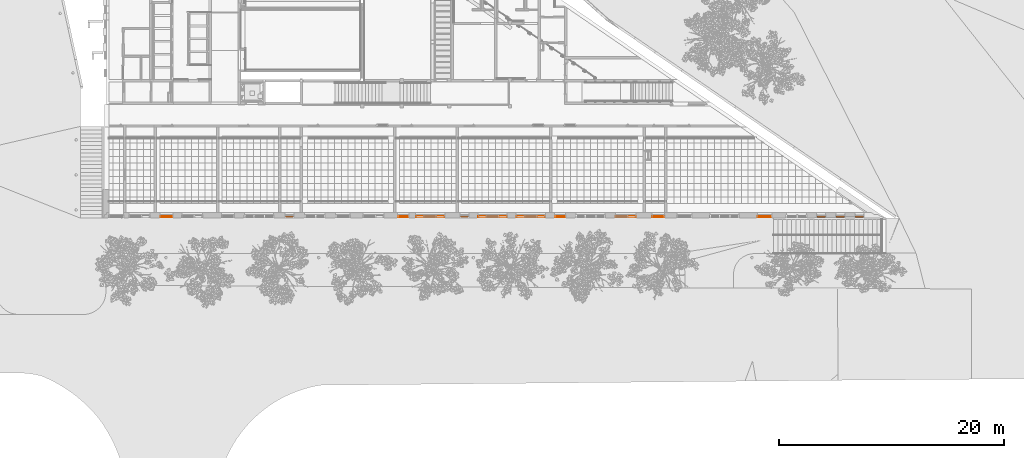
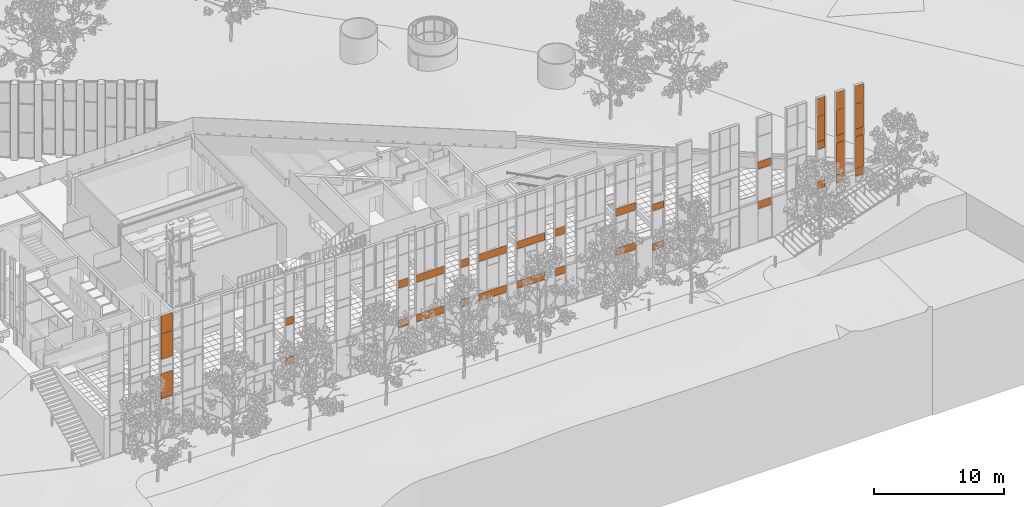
# One storey, part 207 of 246: 37 proxies, 14 elements without a shape of their own.
"""IFC2X3 building model written with IfcOpenShell, lengths in millimetres."""

from ifc_helpers import new_model, entity, si_unit, converted_unit, derived_unit, money_unit, direction, frame, origin_with_axes, place, context, subcontext, project, spatial, faceted_brep, source, transform, mapped, material, type_object, element, aggregate, save


model = new_model("IFC2X3")

# Units and contexts
model_context = context("Model", 3, precision=0.01, world=origin_with_axes(), true_north=direction((0.0, 1.0)))
body_context = subcontext(model_context, "Body", "Model", "MODEL_VIEW")
ifc_project = project(units=[si_unit("LENGTHUNIT", "METRE", prefix="MILLI"), si_unit("AREAUNIT", "SQUARE_METRE"), si_unit("VOLUMEUNIT", "CUBIC_METRE"), converted_unit("PLANEANGLEUNIT", "DEGREE", entity("IfcPlaneAngleMeasure", 0.0174532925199), si_unit("PLANEANGLEUNIT", "RADIAN"), dimensions=[0, 0, 0, 0, 0, 0, 0]), si_unit("SOLIDANGLEUNIT", "STERADIAN"), money_unit("EUR"), converted_unit("TIMEUNIT", "Year", entity("IfcTimeMeasure", 31556926.0), si_unit("TIMEUNIT", "SECOND"), dimensions=[0, 0, 1, 0, 0, 0, 0]), si_unit("MASSUNIT", "GRAM", prefix="KILO"), si_unit("THERMODYNAMICTEMPERATUREUNIT", "DEGREE_CELSIUS"), si_unit("LUMINOUSINTENSITYUNIT", "LUMEN"), si_unit("ENERGYUNIT", "JOULE", prefix="MEGA"), derived_unit("THERMALCONDUCTANCEUNIT", [(si_unit("POWERUNIT", "WATT"), 1), (si_unit("LENGTHUNIT", "METRE"), -1), (si_unit("THERMODYNAMICTEMPERATUREUNIT", "KELVIN"), -1)]), derived_unit("SPECIFICHEATCAPACITYUNIT", [(si_unit("ENERGYUNIT", "JOULE"), 1), (si_unit("MASSUNIT", "GRAM", prefix="KILO"), -1), (si_unit("THERMODYNAMICTEMPERATUREUNIT", "KELVIN"), -1)]), derived_unit("MASSDENSITYUNIT", [(si_unit("MASSUNIT", "GRAM", prefix="KILO"), 1), (si_unit("VOLUMEUNIT", "CUBIC_METRE"), -1)])], contexts=[model_context])

# Site, building, storey
site_placement = place(None, origin_with_axes())
site = spatial("IfcSite", under=ifc_project, at=site_placement, Name="L.Koidula tn 11b", CompositionType="ELEMENT")
building_placement = place(site_placement, origin_with_axes())
building = spatial("IfcBuilding", under=site, at=building_placement, Name="Rakvere Riigigümnaasium", CompositionType="ELEMENT")
storey_placement = place(building_placement, origin_with_axes())
storey = spatial("IfcBuildingStorey", under=building, at=storey_placement, Name="1.korrus 0,00", CompositionType="ELEMENT", Elevation=0.0)

# Curtain wall, proxies
curtain_wall_type = type_object("IfcCurtainWallType", Name="Curtain Wall Type", PredefinedType="NOTDEFINED")
curtain_wall_1_placement = place(storey_placement, frame((81464.0000846, 5111.45334637, -8.09717250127e-06), z_axis=(0.0, 0.0, 1.0), x_axis=(1.0, 0.0, 0.0)))
curtain_wall_1 = element("IfcCurtainWall", 1, at=curtain_wall_1_placement, inside=storey, type_object=curtain_wall_type, Name="KLF-05-2A")
ifc_material_1 = material(Name="Klaaspakett- taustvärvitud klaas 3x")
building_element_proxy_type_1 = type_object("IfcBuildingElementProxyType", Name="1058 x 681 x 54", PredefinedType="NOTDEFINED")
shared_shape_1 = source(origin_with_axes(), body_context, "Body", "Brep", [
    faceted_brep([(1793.00030431, 692.999989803, -27.0), (1094.99999675, 692.999989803, -27.0), (1094.99999675, 692.999989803, 27.0), (1793.00030431, 692.999989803, 27.0), (1793.00030431, 12.0000099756, -27.0), (1094.99999675, 12.0000099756, -27.0), (36.9999898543, 12.0000099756, -27.0), (36.9999898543, 692.999989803, -27.0), (36.9999898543, 692.999989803, 27.0), (36.9999898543, 12.0000099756, 27.0), (1094.99999675, 12.0000099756, 27.0), (1793.00030431, 12.0000099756, 27.0)], [[[0, 1, 2, 3]], [[0, 4, 5, 6, 7, 1]], [[1, 7, 8, 2]], [[3, 2, 8, 9, 10, 11]], [[4, 0, 3, 11]], [[5, 4, 11, 10]], [[6, 5, 10, 9]], [[7, 6, 9, 8]]]),
])
proxy_1_placement = place(curtain_wall_1_placement, frame((0.0, 0.0, 3392.5), z_axis=(0.0, 0.0, 1.0), x_axis=(-1.0, 0.0, 0.0)))
proxy_1 = element("IfcBuildingElementProxy", 2, at=proxy_1_placement, type_object=building_element_proxy_type_1, material=ifc_material_1, Name="KLF-05-2A-Klaasid", context=body_context, shape_type="MappedRepresentation", body=[
    mapped(shared_shape_1, transform((954.000087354, 0.0, -352.5), x_axis=(-1.0, 0.0, 0.0), y_axis=(0.0, 0.0, 1.0), z_axis=(0.0, 1.0, 0.0))),
])
proxy_2_placement = place(curtain_wall_1_placement, frame((0.0, 0.0, 7112.5), z_axis=(0.0, 0.0, 1.0), x_axis=(-1.0, 0.0, 0.0)))
proxy_2 = element("IfcBuildingElementProxy", 3, at=proxy_2_placement, type_object=building_element_proxy_type_1, material=ifc_material_1, Name="KLF-05-2A-Klaasid", context=body_context, shape_type="MappedRepresentation", body=[
    mapped(shared_shape_1, transform((954.000087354, 0.0, -352.5), x_axis=(-1.0, 0.0, 0.0), y_axis=(0.0, 0.0, 1.0), z_axis=(0.0, 1.0, 0.0))),
])
aggregate(curtain_wall_1, [proxy_1, proxy_2])

curtain_wall_2_placement = place(storey_placement, frame((102199.946081, 5111.65323731, 2560.0), z_axis=(0.0, 0.0, 1.0), x_axis=(1.0, 0.0, 0.0)))
curtain_wall_2 = element("IfcCurtainWall", 4, at=curtain_wall_2_placement, inside=storey, type_object=curtain_wall_type, Name="KLF-05-4A3")
building_element_proxy_type_2 = type_object("IfcBuildingElementProxyType", Name="706 x 681 x 54", PredefinedType="NOTDEFINED")
shared_shape_2 = source(origin_with_axes(), body_context, "Body", "Brep", [
    faceted_brep([(762.999723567, 693.000004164, -27.0), (57.0001092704, 693.000004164, -27.0), (57.0001092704, 693.000004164, 27.0), (762.999723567, 693.000004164, 27.0), (762.999723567, 12.0000049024, -27.0), (57.0001092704, 12.0000049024, -27.0), (57.0001092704, 12.0000049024, 27.0), (762.999723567, 12.0000049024, 27.0)], [[[0, 1, 2, 3]], [[0, 4, 5, 1]], [[1, 5, 6, 2]], [[3, 2, 6, 7]], [[4, 0, 3, 7]], [[5, 4, 7, 6]]]),
])
proxy_3_placement = place(curtain_wall_2_placement, frame((0.0, 0.0, 4557.5), z_axis=(0.0, 0.0, 1.0), x_axis=(-0.999999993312, 0.00011565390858, 0.0)))
proxy_3 = element("IfcBuildingElementProxy", 5, at=proxy_3_placement, type_object=building_element_proxy_type_2, material=ifc_material_1, Name="KLF-68", context=body_context, shape_type="MappedRepresentation", body=[
    mapped(shared_shape_2, transform((409.999916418, 0.0, -352.5), x_axis=(-1.0, 0.0, 0.0), y_axis=(0.0, 0.0, 1.0), z_axis=(0.0, 1.0, 0.0))),
])
proxy_4_placement = place(curtain_wall_2_placement, frame((0.0, 0.0, 837.5), z_axis=(0.0, 0.0, 1.0), x_axis=(-0.999999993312, 0.00011565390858, 0.0)))
proxy_4 = element("IfcBuildingElementProxy", 6, at=proxy_4_placement, type_object=building_element_proxy_type_2, material=ifc_material_1, Name="KLF-69", context=body_context, shape_type="MappedRepresentation", body=[
    mapped(shared_shape_2, transform((409.999916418, 0.0, -352.5), x_axis=(-1.0, 0.0, 0.0), y_axis=(0.0, 0.0, 1.0), z_axis=(0.0, 1.0, 0.0))),
])

curtain_wall_3_placement = place(storey_placement, frame((98799.9667993, 5111.45595337, 1534.99996364), z_axis=(0.0, 0.0, 1.0), x_axis=(1.0, 0.0, 0.0)))
curtain_wall_3 = element("IfcCurtainWall", 7, at=curtain_wall_3_placement, inside=storey, type_object=curtain_wall_type, Name="KLF-05-4A1")
proxy_5_placement = place(curtain_wall_3_placement, frame((0.0, 0.0, 5577.50002826), z_axis=(0.0, 0.0, 1.0), x_axis=(-0.999999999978, -6.68287358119e-06, 0.0)))
proxy_5 = element("IfcBuildingElementProxy", 8, at=proxy_5_placement, type_object=building_element_proxy_type_2, material=ifc_material_1, Name="KLF-73", context=body_context, shape_type="MappedRepresentation", body=[
    mapped(shared_shape_2, transform((409.999957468, 0.0, -352.5), x_axis=(-0.999999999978, 6.68287358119e-06, 0.0), y_axis=(0.0, 0.0, 1.0), z_axis=(6.68287358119e-06, 0.999999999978, 0.0))),
])
proxy_6_placement = place(curtain_wall_3_placement, frame((0.0, 0.0, 1857.50002826), z_axis=(0.0, 0.0, 1.0), x_axis=(-0.999999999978, -6.68287358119e-06, 0.0)))
proxy_6 = element("IfcBuildingElementProxy", 9, at=proxy_6_placement, type_object=building_element_proxy_type_2, material=ifc_material_1, Name="KLF-67", context=body_context, shape_type="MappedRepresentation", body=[
    mapped(shared_shape_2, transform((409.999957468, 0.0, -352.5), x_axis=(-0.999999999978, 6.68287358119e-06, 0.0), y_axis=(0.0, 0.0, 1.0), z_axis=(6.68287358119e-06, 0.999999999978, 0.0))),
])

curtain_wall_4_placement = place(storey_placement, frame((100499.941472, 5111.64286466, 2044.99997146), z_axis=(0.0, 0.0, 1.0), x_axis=(1.0, 0.0, 0.0)))
curtain_wall_4 = element("IfcCurtainWall", 10, at=curtain_wall_4_placement, inside=storey, type_object=curtain_wall_type, Name="KLF-05-4A2")
proxy_7_placement = place(curtain_wall_4_placement, frame((2.35403376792e-05, -3.34843264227e-09, 5067.5), z_axis=(0.0, 0.0, 1.0), x_axis=(-0.999999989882, 0.000142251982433, 0.0)))
proxy_7 = element("IfcBuildingElementProxy", 11, at=proxy_7_placement, type_object=building_element_proxy_type_2, material=ifc_material_1, Name="KLF-67", context=body_context, shape_type="MappedRepresentation", body=[
    mapped(shared_shape_2, transform((409.999827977, 0.0, -352.5), x_axis=(-1.0, 0.0, 0.0), y_axis=(0.0, 0.0, 1.0), z_axis=(0.0, 1.0, 0.0))),
])
proxy_8_placement = place(curtain_wall_4_placement, frame((2.35403376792e-05, -3.34843264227e-09, 1347.5), z_axis=(0.0, 0.0, 1.0), x_axis=(-0.999999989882, 0.000142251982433, 0.0)))
proxy_8 = element("IfcBuildingElementProxy", 12, at=proxy_8_placement, type_object=building_element_proxy_type_2, material=ifc_material_1, Name="KLF-66", context=body_context, shape_type="MappedRepresentation", body=[
    mapped(shared_shape_2, transform((409.999827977, 0.0, -352.5), x_axis=(-1.0, 0.0, 0.0), y_axis=(0.0, 0.0, 1.0), z_axis=(0.0, 1.0, 0.0))),
])

curtain_wall_5_placement = place(storey_placement, frame((72896.908541, 5111.45334637, -8.09717227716e-06), z_axis=(0.0, 0.0, 1.0), x_axis=(1.0, 0.0, 0.0)))
curtain_wall_5 = element("IfcCurtainWall", 13, at=curtain_wall_5_placement, inside=storey, type_object=curtain_wall_type, Name="KLF-05-3B")
building_element_proxy_type_3 = type_object("IfcBuildingElementProxyType", Name="718 x 681 x 54", PredefinedType="NOTDEFINED")
shared_shape_3 = source(origin_with_axes(), body_context, "Body", "Brep", [
    faceted_brep([(1787.99995967, 693.000018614, -27.0), (1069.99998177, 693.000018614, -27.0), (1069.99998177, 693.000018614, 27.0), (1787.99995967, 693.000018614, 27.0), (1787.99995967, 12.0000019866, -27.0), (1069.99998177, 12.0000019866, -27.0), (19.5432731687, 12.0000019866, -27.0), (9.66683444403e-06, 12.0000019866, -27.0), (-718.000083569, 12.0000019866, -27.0), (-718.000083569, 693.000018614, -27.0), (9.66683444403e-06, 693.000018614, -27.0), (19.5432731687, 693.000018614, -27.0), (19.5432731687, 693.000018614, 27.0), (9.66683444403e-06, 693.000018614, 27.0), (-718.000083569, 693.000018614, 27.0), (-718.000083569, 12.0000019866, 27.0), (9.66683444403e-06, 12.0000019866, 27.0), (19.5432731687, 12.0000019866, 27.0), (1069.99998177, 12.0000019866, 27.0), (1787.99995967, 12.0000019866, 27.0)], [[[0, 1, 2, 3]], [[0, 4, 5, 6, 7, 8, 9, 10, 11, 1]], [[1, 11, 12, 2]], [[3, 2, 12, 13, 14, 15, 16, 17, 18, 19]], [[4, 0, 3, 19]], [[5, 4, 19, 18]], [[6, 5, 18, 17]], [[7, 6, 17, 16]], [[8, 7, 16, 15]], [[9, 8, 15, 14]], [[10, 9, 14, 13]], [[11, 10, 13, 12]]]),
])
proxy_9_placement = place(curtain_wall_5_placement, frame((0.0, 0.0, 3392.5), z_axis=(0.0, 0.0, 1.0), x_axis=(-1.0, 0.0, 0.0)))
proxy_9 = element("IfcBuildingElementProxy", 14, at=proxy_9_placement, type_object=building_element_proxy_type_3, material=ifc_material_1, Name="KLF-05-2A-Klaasid", context=body_context, shape_type="MappedRepresentation", body=[
    mapped(shared_shape_3, transform((431.908628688, 0.0, -352.5), x_axis=(-1.0, 0.0, 0.0), y_axis=(0.0, 0.0, 1.0), z_axis=(0.0, 1.0, 0.0))),
])
proxy_10_placement = place(curtain_wall_5_placement, frame((-1.72704659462e-05, 0.0, 7112.5), z_axis=(0.0, 0.0, 1.0), x_axis=(-1.0, 0.0, 0.0)))
proxy_10 = element("IfcBuildingElementProxy", 15, at=proxy_10_placement, type_object=building_element_proxy_type_3, material=ifc_material_1, Name="KLF-05-2A-Klaasid", context=body_context, shape_type="MappedRepresentation", body=[
    mapped(shared_shape_3, transform((431.908611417, 0.0, -352.5), x_axis=(-1.0, 0.0, 0.0), y_axis=(0.0, 0.0, 1.0), z_axis=(0.0, 1.0, 0.0))),
])
aggregate(curtain_wall_5, [proxy_9, proxy_10])

curtain_wall_6_placement = place(storey_placement, frame((69496.9084811, 5111.45334637, -8.09717186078e-06), z_axis=(0.0, 0.0, 1.0), x_axis=(1.0, 0.0, 0.0)))
curtain_wall_6 = element("IfcCurtainWall", 16, at=curtain_wall_6_placement, inside=storey, type_object=curtain_wall_type, Name="KLF-05-3B")
proxy_11_placement = place(curtain_wall_6_placement, frame((0.0, 0.0, 3392.5), z_axis=(0.0, 0.0, 1.0), x_axis=(-1.0, 0.0, 0.0)))
proxy_11 = element("IfcBuildingElementProxy", 17, at=proxy_11_placement, type_object=building_element_proxy_type_3, material=ifc_material_1, Name="KLF-05-2A-Klaasid", context=body_context, shape_type="MappedRepresentation", body=[
    mapped(shared_shape_3, transform((431.908628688, 0.0, -352.5), x_axis=(-1.0, 0.0, 0.0), y_axis=(0.0, 0.0, 1.0), z_axis=(0.0, 1.0, 0.0))),
])
proxy_12_placement = place(curtain_wall_6_placement, frame((-1.72704801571e-05, 0.0, 7112.5), z_axis=(0.0, 0.0, 1.0), x_axis=(-1.0, 0.0, 0.0)))
proxy_12 = element("IfcBuildingElementProxy", 18, at=proxy_12_placement, type_object=building_element_proxy_type_3, material=ifc_material_1, Name="KLF-05-2A-Klaasid", context=body_context, shape_type="MappedRepresentation", body=[
    mapped(shared_shape_3, transform((431.908611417, 0.0, -352.5), x_axis=(-1.0, 0.0, 0.0), y_axis=(0.0, 0.0, 1.0), z_axis=(0.0, 1.0, 0.0))),
])
aggregate(curtain_wall_6, [proxy_11, proxy_12])

curtain_wall_7_placement = place(storey_placement, frame((63946.9084811, 5111.45334637, -8.0971711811e-06), z_axis=(0.0, 0.0, 1.0), x_axis=(1.0, 0.0, 0.0)))
curtain_wall_7 = element("IfcCurtainWall", 19, at=curtain_wall_7_placement, inside=storey, type_object=curtain_wall_type, Name="KLF-05-3B")
proxy_13_placement = place(curtain_wall_7_placement, frame((0.0, 0.0, 3392.5), z_axis=(0.0, 0.0, 1.0), x_axis=(-1.0, 0.0, 0.0)))
proxy_13 = element("IfcBuildingElementProxy", 20, at=proxy_13_placement, type_object=building_element_proxy_type_3, material=ifc_material_1, Name="KLF-05-2A-Klaasid", context=body_context, shape_type="MappedRepresentation", body=[
    mapped(shared_shape_3, transform((431.908628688, 0.0, -352.5), x_axis=(-1.0, 0.0, 0.0), y_axis=(0.0, 0.0, 1.0), z_axis=(0.0, 1.0, 0.0))),
])
proxy_14_placement = place(curtain_wall_7_placement, frame((-1.72704659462e-05, 0.0, 7112.5), z_axis=(0.0, 0.0, 1.0), x_axis=(-1.0, 0.0, 0.0)))
proxy_14 = element("IfcBuildingElementProxy", 21, at=proxy_14_placement, type_object=building_element_proxy_type_3, material=ifc_material_1, Name="KLF-05-2A-Klaasid", context=body_context, shape_type="MappedRepresentation", body=[
    mapped(shared_shape_3, transform((431.908611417, 0.0, -352.5), x_axis=(-1.0, 0.0, 0.0), y_axis=(0.0, 0.0, 1.0), z_axis=(0.0, 1.0, 0.0))),
])
aggregate(curtain_wall_7, [proxy_13, proxy_14])

curtain_wall_8_placement = place(storey_placement, frame((75600.000125, 5111.45334637, -1.61944652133e-05), z_axis=(0.0, 0.0, 1.0), x_axis=(1.0, 0.0, 0.0)))
curtain_wall_8 = element("IfcCurtainWall", 22, at=curtain_wall_8_placement, inside=storey, type_object=curtain_wall_type, Name="KLF-05-4B")
building_element_proxy_type_4 = type_object("IfcBuildingElementProxyType", Name="906 x 681 x 54", PredefinedType="NOTDEFINED")
shared_shape_4 = source(origin_with_axes(), body_context, "Body", "Brep", [
    faceted_brep([(943.000295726, 692.999998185, -27.0), (37.0000026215, 692.999998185, -27.0), (37.0000026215, 692.999998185, 27.0), (943.000295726, 692.999998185, 27.0), (943.000295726, 11.9999976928, -27.0), (37.0000026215, 11.9999976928, -27.0), (37.0000026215, 11.9999976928, 27.0), (943.000295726, 11.9999976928, 27.0)], [[[0, 1, 2, 3]], [[0, 4, 5, 1]], [[1, 5, 6, 2]], [[3, 2, 6, 7]], [[4, 0, 3, 7]], [[5, 4, 7, 6]]]),
])
proxy_15_placement = place(curtain_wall_8_placement, frame((2.13789377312e-05, 0.0, 7112.5), z_axis=(0.0, 0.0, 1.0), x_axis=(-1.0, 0.0, 0.0)))
proxy_15 = element("IfcBuildingElementProxy", 23, at=proxy_15_placement, type_object=building_element_proxy_type_4, material=ifc_material_1, Name="KLF-70", context=body_context, shape_type="MappedRepresentation", body=[
    mapped(shared_shape_4, transform((490.000149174, 0.0, -352.5), x_axis=(-1.0, 0.0, 0.0), y_axis=(0.0, 0.0, 1.0), z_axis=(0.0, 1.0, 0.0))),
])
proxy_16_placement = place(curtain_wall_8_placement, frame((2.13789377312e-05, 0.0, 3392.5), z_axis=(0.0, 0.0, 1.0), x_axis=(-1.0, 0.0, 0.0)))
proxy_16 = element("IfcBuildingElementProxy", 24, at=proxy_16_placement, type_object=building_element_proxy_type_4, material=ifc_material_1, Name="KLF-66", context=body_context, shape_type="MappedRepresentation", body=[
    mapped(shared_shape_4, transform((490.000149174, 0.0, -352.5), x_axis=(-1.0, 0.0, 0.0), y_axis=(0.0, 0.0, 1.0), z_axis=(0.0, 1.0, 0.0))),
])
aggregate(curtain_wall_8, [proxy_15, proxy_16])

curtain_wall_9_placement = place(storey_placement, frame((61650.0002269, 5111.45334637, -8.09717995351e-06), z_axis=(0.0, 0.0, 1.0), x_axis=(1.0, 0.0, 0.0)))
curtain_wall_9 = element("IfcCurtainWall", 25, at=curtain_wall_9_placement, inside=storey, type_object=curtain_wall_type, Name="KLF-05-4B")
proxy_17_placement = place(curtain_wall_9_placement, frame((2.13789448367e-05, 0.0, 7112.5), z_axis=(0.0, 0.0, 1.0), x_axis=(-1.0, 0.0, 0.0)))
proxy_17 = element("IfcBuildingElementProxy", 26, at=proxy_17_placement, type_object=building_element_proxy_type_4, material=ifc_material_1, Name="KLF-70", context=body_context, shape_type="MappedRepresentation", body=[
    mapped(shared_shape_4, transform((490.000149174, 0.0, -352.5), x_axis=(-1.0, 0.0, 0.0), y_axis=(0.0, 0.0, 1.0), z_axis=(0.0, 1.0, 0.0))),
])
proxy_18_placement = place(curtain_wall_9_placement, frame((2.13789448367e-05, 0.0, 3392.5), z_axis=(0.0, 0.0, 1.0), x_axis=(-1.0, 0.0, 0.0)))
proxy_18 = element("IfcBuildingElementProxy", 27, at=proxy_18_placement, type_object=building_element_proxy_type_4, material=ifc_material_1, Name="KLF-66", context=body_context, shape_type="MappedRepresentation", body=[
    mapped(shared_shape_4, transform((490.000149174, 0.0, -352.5), x_axis=(-1.0, 0.0, 0.0), y_axis=(0.0, 0.0, 1.0), z_axis=(0.0, 1.0, 0.0))),
])
aggregate(curtain_wall_9, [proxy_17, proxy_18])

curtain_wall_10_placement = place(storey_placement, frame((67100.0002798, 5111.45334637, -1.61944652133e-05), z_axis=(0.0, 0.0, 1.0), x_axis=(1.0, 0.0, 0.0)))
curtain_wall_10 = element("IfcCurtainWall", 28, at=curtain_wall_10_placement, inside=storey, type_object=curtain_wall_type, Name="KLF-05-4A")
shared_shape_5 = source(origin_with_axes(), body_context, "Body", "Brep", [
    faceted_brep([(743.000411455, 693.000003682, -27.0), (36.999994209, 693.000003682, -27.0), (36.999994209, 693.000003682, 27.0), (743.000411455, 693.000003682, 27.0), (743.000411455, 12.0000053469, -27.0), (36.999994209, 12.0000053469, -27.0), (36.999994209, 12.0000053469, 27.0), (743.000411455, 12.0000053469, 27.0)], [[[0, 1, 2, 3]], [[0, 4, 5, 1]], [[1, 5, 6, 2]], [[3, 2, 6, 7]], [[4, 0, 3, 7]], [[5, 4, 7, 6]]]),
])
proxy_19_placement = place(curtain_wall_10_placement, frame((5.73966474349e-06, 0.0, 7112.5), z_axis=(0.0, 0.0, 1.0), x_axis=(-1.0, 0.0, 0.0)))
proxy_19 = element("IfcBuildingElementProxy", 29, at=proxy_19_placement, type_object=building_element_proxy_type_2, material=ifc_material_1, Name="KLF-70", context=body_context, shape_type="MappedRepresentation", body=[
    mapped(shared_shape_5, transform((390.000202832, 0.0, -352.5), x_axis=(-1.0, 0.0, 0.0), y_axis=(0.0, 0.0, 1.0), z_axis=(0.0, 1.0, 0.0))),
])
proxy_20_placement = place(curtain_wall_10_placement, frame((5.73966474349e-06, 0.0, 3392.5), z_axis=(0.0, 0.0, 1.0), x_axis=(-1.0, 0.0, 0.0)))
proxy_20 = element("IfcBuildingElementProxy", 30, at=proxy_20_placement, type_object=building_element_proxy_type_2, material=ifc_material_1, Name="KLF-66", context=body_context, shape_type="MappedRepresentation", body=[
    mapped(shared_shape_5, transform((390.000202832, 0.0, -352.5), x_axis=(-1.0, 0.0, 0.0), y_axis=(0.0, 0.0, 1.0), z_axis=(0.0, 1.0, 0.0))),
])
aggregate(curtain_wall_10, [proxy_19, proxy_20])

curtain_wall_11_placement = place(storey_placement, frame((51550.0001978, 5111.45334637, -1.61944652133e-05), z_axis=(0.0, 0.0, 1.0), x_axis=(1.0, 0.0, 0.0)))
curtain_wall_11 = element("IfcCurtainWall", 31, at=curtain_wall_11_placement, inside=storey, type_object=curtain_wall_type, Name="KLF-05-4A")
proxy_21_placement = place(curtain_wall_11_placement, frame((5.73965053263e-06, 0.0, 7112.5), z_axis=(0.0, 0.0, 1.0), x_axis=(-1.0, 0.0, 0.0)))
proxy_21 = element("IfcBuildingElementProxy", 32, at=proxy_21_placement, type_object=building_element_proxy_type_2, material=ifc_material_1, Name="KLF-70", context=body_context, shape_type="MappedRepresentation", body=[
    mapped(shared_shape_5, transform((390.000202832, 0.0, -352.5), x_axis=(-1.0, 0.0, 0.0), y_axis=(0.0, 0.0, 1.0), z_axis=(0.0, 1.0, 0.0))),
])
proxy_22_placement = place(curtain_wall_11_placement, frame((5.73965053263e-06, 0.0, 3392.5), z_axis=(0.0, 0.0, 1.0), x_axis=(-1.0, 0.0, 0.0)))
proxy_22 = element("IfcBuildingElementProxy", 33, at=proxy_22_placement, type_object=building_element_proxy_type_2, material=ifc_material_1, Name="KLF-66", context=body_context, shape_type="MappedRepresentation", body=[
    mapped(shared_shape_5, transform((390.000202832, 0.0, -352.5), x_axis=(-1.0, 0.0, 0.0), y_axis=(0.0, 0.0, 1.0), z_axis=(0.0, 1.0, 0.0))),
])
aggregate(curtain_wall_11, [proxy_21, proxy_22])

curtain_wall_12_placement = place(storey_placement, frame((84320.1847914, 5111.45334637, -1.61944635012e-05), z_axis=(0.0, 0.0, 1.0), x_axis=(1.0, 0.0, 0.0)))
curtain_wall_12 = element("IfcCurtainWall", 34, at=curtain_wall_12_placement, inside=storey, type_object=curtain_wall_type, Name="KLF-05-1C")
ifc_material_2 = material(Name="Klaaspakett 3x ribikardinatega")
building_element_proxy_type_5 = type_object("IfcBuildingElementProxyType", Name="1046 x 616 x 54", PredefinedType="NOTDEFINED")
shared_shape_6 = source(origin_with_axes(), body_context, "Body", "Brep", [
    faceted_brep([(1083.50020101, 627.999995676, -27.0), (37.4999016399, 627.999995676, -27.0), (37.4999016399, 627.999995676, 27.0), (1083.50020101, 627.999995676, 27.0), (1083.50020101, 12.0000057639, -27.0), (37.4999016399, 12.0000057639, -27.0), (37.4999016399, 12.0000057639, 27.0), (1083.50020101, 12.0000057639, 27.0)], [[[0, 1, 2, 3]], [[0, 4, 5, 1]], [[1, 5, 6, 2]], [[3, 2, 6, 7]], [[4, 0, 3, 7]], [[5, 4, 7, 6]]]),
])
proxy_23_placement = place(curtain_wall_12_placement, frame((0.0, 0.0, 6440.0), z_axis=(0.0, 0.0, 1.0), x_axis=(-1.0, 0.0, 0.0)))
proxy_23 = element("IfcBuildingElementProxy", 35, at=proxy_23_placement, type_object=building_element_proxy_type_5, material=ifc_material_2, Name="KLF-68", context=body_context, shape_type="MappedRepresentation", body=[
    mapped(shared_shape_6, transform((560.500051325, 0.0, -320.0), x_axis=(-1.0, 0.0, 0.0), y_axis=(0.0, 0.0, 1.0), z_axis=(0.0, 1.0, 0.0))),
])
proxy_24_placement = place(curtain_wall_12_placement, frame((0.0, 0.0, 2720.0), z_axis=(0.0, 0.0, 1.0), x_axis=(-1.0, 0.0, 0.0)))
proxy_24 = element("IfcBuildingElementProxy", 36, at=proxy_24_placement, type_object=building_element_proxy_type_5, material=ifc_material_2, Name="KLF-58", context=body_context, shape_type="MappedRepresentation", body=[
    mapped(shared_shape_6, transform((560.500051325, 0.0, -320.0), x_axis=(-1.0, 0.0, 0.0), y_axis=(0.0, 0.0, 1.0), z_axis=(0.0, 1.0, 0.0))),
])
aggregate(curtain_wall_12, [proxy_23, proxy_24])

# Proxy
building_element_proxy_type_6 = type_object("IfcBuildingElementProxyType", Name="706 x 1696 x 54", PredefinedType="NOTDEFINED")
shared_shape_7 = source(origin_with_axes(), body_context, "Body", "Brep", [
    faceted_brep([(762.999724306, 1707.99998959, -27.0), (57.0000470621, 1707.99998959, -27.0), (57.0000470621, 1707.99998959, 27.0), (762.999724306, 1707.99998959, 27.0), (762.999776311, 11.999995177, -27.0), (57.0000990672, 11.999995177, -27.0), (57.0000990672, 11.999995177, 27.0), (762.999776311, 11.999995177, 27.0)], [[[0, 1, 2, 3]], [[0, 4, 5, 1]], [[1, 5, 6, 2]], [[3, 2, 6, 7]], [[4, 0, 3, 7]], [[5, 4, 7, 6]]]),
])
proxy_25_placement = place(curtain_wall_2_placement, frame((5.50684831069e-07, 0.0, 8157.49999061), z_axis=(0.0, 0.0, 1.0), x_axis=(-0.999999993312, 0.00011565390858, 0.0)))
proxy_25 = element("IfcBuildingElementProxy", 37, at=proxy_25_placement, type_object=building_element_proxy_type_6, material=ifc_material_2, Name="KLF-71", context=body_context, shape_type="MappedRepresentation", body=[
    mapped(shared_shape_7, transform((409.999916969, 0.0, -872.499990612), x_axis=(-1.0, 0.0, 0.0), y_axis=(0.0, 0.0, 1.0), z_axis=(0.0, 1.0, 0.0))),
])

proxy_26_placement = place(curtain_wall_3_placement, frame((1.16805409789e-05, 0.0, 9177.50004084), z_axis=(0.0, 0.0, 1.0), x_axis=(-0.999999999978, -6.68287358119e-06, 0.0)))
proxy_26 = element("IfcBuildingElementProxy", 38, at=proxy_26_placement, type_object=building_element_proxy_type_6, material=ifc_material_2, Name="KLF-70", context=body_context, shape_type="MappedRepresentation", body=[
    mapped(shared_shape_7, transform((409.999969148, 0.0, -872.500012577), x_axis=(-0.999999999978, 6.68287358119e-06, 0.0), y_axis=(0.0, 0.0, 1.0), z_axis=(6.68287358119e-06, 0.999999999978, 0.0))),
])

proxy_27_placement = place(curtain_wall_4_placement, frame((0.0, 0.0, 8667.5000228), z_axis=(0.0, 0.0, 1.0), x_axis=(-0.999999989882, 0.000142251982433, 0.0)))
proxy_27 = element("IfcBuildingElementProxy", 39, at=proxy_27_placement, type_object=building_element_proxy_type_6, material=ifc_material_2, Name="KLF-70", context=body_context, shape_type="MappedRepresentation", body=[
    mapped(shared_shape_7, transform((409.999804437, 0.0, -872.500022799), x_axis=(-1.0, 0.0, 0.0), y_axis=(0.0, 0.0, 1.0), z_axis=(0.0, 1.0, 0.0))),
])

building_element_proxy_type_7 = type_object("IfcBuildingElementProxyType", Name="706 x 2351 x 54", PredefinedType="NOTDEFINED")
shared_shape_8 = source(origin_with_axes(), body_context, "Body", "Brep", [
    faceted_brep([(762.999777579, 2363.00000149, -27.0), (57.0000893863, 2363.00000149, -27.0), (57.0000893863, 2363.00000149, 27.0), (762.999777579, 2363.00000149, 27.0), (762.999742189, 11.9999985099, -27.0), (57.0000893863, 11.9999985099, -27.0), (57.0000893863, 11.9999985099, 27.0), (762.999742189, 11.9999985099, 27.0)], [[[0, 1, 2, 3]], [[0, 4, 5, 1]], [[1, 5, 6, 2]], [[3, 2, 6, 7]], [[4, 0, 3, 7]], [[5, 4, 7, 6]]]),
])
proxy_28_placement = place(curtain_wall_2_placement, frame((1.07911262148e-05, -1.24789067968e-09, 6097.5), z_axis=(0.0, 0.0, 1.0), x_axis=(-0.999999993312, 0.00011565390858, 0.0)))
proxy_28 = element("IfcBuildingElementProxy", 40, at=proxy_28_placement, type_object=building_element_proxy_type_7, material=ifc_material_2, Name="KLF-70", context=body_context, shape_type="MappedRepresentation", body=[
    mapped(shared_shape_8, transform((409.99992721, 0.0, -1187.5), x_axis=(-1.0, 0.0, 0.0), y_axis=(0.0, 0.0, 1.0), z_axis=(0.0, 1.0, 0.0))),
])

proxy_29_placement = place(curtain_wall_3_placement, frame((1.1231080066e-05, 0.0, 7117.50002826), z_axis=(0.0, 0.0, 1.0), x_axis=(-0.999999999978, -6.68287358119e-06, 0.0)))
proxy_29 = element("IfcBuildingElementProxy", 41, at=proxy_29_placement, type_object=building_element_proxy_type_7, material=ifc_material_2, Name="KLF-69", context=body_context, shape_type="MappedRepresentation", body=[
    mapped(shared_shape_8, transform((409.999968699, 0.0, -1187.5), x_axis=(-0.999999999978, 6.68287358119e-06, 0.0), y_axis=(0.0, 0.0, 1.0), z_axis=(6.68287358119e-06, 0.999999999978, 0.0))),
])

aggregate(curtain_wall_3, [proxy_26, proxy_29, proxy_5, proxy_6])

proxy_30_placement = place(curtain_wall_4_placement, frame((9.47548528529e-06, -1.3482548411e-09, 6607.5), z_axis=(0.0, 0.0, 1.0), x_axis=(-0.999999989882, 0.000142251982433, 0.0)))
proxy_30 = element("IfcBuildingElementProxy", 42, at=proxy_30_placement, type_object=building_element_proxy_type_7, material=ifc_material_2, Name="KLF-69", context=body_context, shape_type="MappedRepresentation", body=[
    mapped(shared_shape_8, transform((409.999813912, 0.0, -1187.5), x_axis=(-1.0, 0.0, 0.0), y_axis=(0.0, 0.0, 1.0), z_axis=(0.0, 1.0, 0.0))),
])

building_element_proxy_type_8 = type_object("IfcBuildingElementProxyType", Name="706 x 2991 x 54", PredefinedType="NOTDEFINED")
shared_shape_9 = source(origin_with_axes(), body_context, "Body", "Brep", [
    faceted_brep([(762.999738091, 3002.99998659, -27.0), (57.0000872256, 3002.99998659, -27.0), (57.0000872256, 3002.99998659, 27.0), (762.999738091, 3002.99998659, 27.0), (762.999738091, 12.0000134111, -27.0), (57.0000872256, 12.0000134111, -27.0), (57.0000872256, 12.0000134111, 27.0), (762.999738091, 12.0000134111, 27.0)], [[[0, 1, 2, 3]], [[0, 4, 5, 1]], [[1, 5, 6, 2]], [[3, 2, 6, 7]], [[4, 0, 3, 7]], [[5, 4, 7, 6]]]),
])
proxy_31_placement = place(curtain_wall_2_placement, frame((0.0, 0.0, 2697.5), z_axis=(0.0, 0.0, 1.0), x_axis=(-0.999999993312, 0.00011565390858, 0.0)))
proxy_31 = element("IfcBuildingElementProxy", 43, at=proxy_31_placement, type_object=building_element_proxy_type_8, material=ifc_material_2, Name="KLF-67", context=body_context, shape_type="MappedRepresentation", body=[
    mapped(shared_shape_9, transform((409.999916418, 0.0, -1507.5), x_axis=(-1.0, 0.0, 0.0), y_axis=(0.0, 0.0, 1.0), z_axis=(0.0, 1.0, 0.0))),
])

aggregate(curtain_wall_2, [proxy_3, proxy_31, proxy_4, proxy_25, proxy_28])

proxy_32_placement = place(curtain_wall_4_placement, frame((2.35403376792e-05, -3.34843264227e-09, 3207.5), z_axis=(0.0, 0.0, 1.0), x_axis=(-0.999999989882, 0.000142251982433, 0.0)))
proxy_32 = element("IfcBuildingElementProxy", 44, at=proxy_32_placement, type_object=building_element_proxy_type_8, material=ifc_material_2, Name="KLF-68", context=body_context, shape_type="MappedRepresentation", body=[
    mapped(shared_shape_9, transform((409.999827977, 0.0, -1507.5), x_axis=(-1.0, 0.0, 0.0), y_axis=(0.0, 0.0, 1.0), z_axis=(0.0, 1.0, 0.0))),
])

aggregate(curtain_wall_4, [proxy_27, proxy_30, proxy_7, proxy_32, proxy_8])

# Curtain wall, proxies
curtain_wall_13_placement = place(storey_placement, frame((93770.0000115, 5111.45334637, -1.61944652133e-05), z_axis=(0.0, 0.0, 1.0), x_axis=(1.0, 0.0, 0.0)))
curtain_wall_13 = element("IfcCurtainWall", 45, at=curtain_wall_13_placement, inside=storey, type_object=curtain_wall_type, Name="KLF-05-1E")
building_element_proxy_type_9 = type_object("IfcBuildingElementProxyType", Name="1206 x 681 x 54", PredefinedType="NOTDEFINED")
shared_shape_10 = source(origin_with_axes(), body_context, "Body", "Brep", [
    faceted_brep([(1363.00000944, 693.000000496, -27.0), (156.999822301, 693.000000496, -27.0), (156.999822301, 693.000000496, 27.0), (1363.00000944, 693.000000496, 27.0), (1363.00000944, 12.0000015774, -27.0), (156.999822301, 12.0000015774, -27.0), (156.999822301, 12.0000015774, 27.0), (1363.00000944, 12.0000015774, 27.0)], [[[0, 1, 2, 3]], [[0, 4, 5, 1]], [[1, 5, 6, 2]], [[3, 2, 6, 7]], [[4, 0, 3, 7]], [[5, 4, 7, 6]]]),
])
proxy_33_placement = place(curtain_wall_13_placement, frame((-3.64792640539e-08, 0.0, 7112.5), z_axis=(0.0, 0.0, 1.0), x_axis=(-1.0, 0.0, 0.0)))
proxy_33 = element("IfcBuildingElementProxy", 46, at=proxy_33_placement, type_object=building_element_proxy_type_9, material=ifc_material_1, Name="KLF-70", context=body_context, shape_type="MappedRepresentation", body=[
    mapped(shared_shape_10, transform((759.999915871, 0.0, -352.5), x_axis=(-1.0, 0.0, 0.0), y_axis=(0.0, 0.0, 1.0), z_axis=(0.0, 1.0, 0.0))),
])
proxy_34_placement = place(curtain_wall_13_placement, frame((-3.64792640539e-08, 0.0, 3392.5), z_axis=(0.0, 0.0, 1.0), x_axis=(-1.0, 0.0, 0.0)))
proxy_34 = element("IfcBuildingElementProxy", 47, at=proxy_34_placement, type_object=building_element_proxy_type_9, material=ifc_material_1, Name="KLF-66", context=body_context, shape_type="MappedRepresentation", body=[
    mapped(shared_shape_10, transform((759.999915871, 0.0, -352.5), x_axis=(-1.0, 0.0, 0.0), y_axis=(0.0, 0.0, 1.0), z_axis=(0.0, 1.0, 0.0))),
])
aggregate(curtain_wall_13, [proxy_33, proxy_34])

curtain_wall_14_placement = place(storey_placement, frame((40619.71659, 5111.45334637, -1.61944636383e-05), z_axis=(0.0, 0.0, 1.0), x_axis=(1.0, 0.0, 0.0)))
curtain_wall_14 = element("IfcCurtainWall", 48, at=curtain_wall_14_placement, inside=storey, type_object=curtain_wall_type, Name="KLF-05-1D")
building_element_proxy_type_10 = type_object("IfcBuildingElementProxyType", Name="1046 x 2351 x 54", PredefinedType="NOTDEFINED")
proxy_35_placement = place(curtain_wall_14_placement, frame((0.0, 0.0, 4932.5), z_axis=(0.0, 0.0, 1.0), x_axis=(-1.0, 0.0, 0.0)))
proxy_35 = element("IfcBuildingElementProxy", 49, at=proxy_35_placement, type_object=building_element_proxy_type_10, material=ifc_material_2, Name="KLF-05-2D-A1", context=body_context, shape_type="Brep", body=[
    faceted_brep([(-523.000167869, -27.0, 1175.50000149), (523.000174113, -27.0, 1175.50000149), (523.000174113, 27.0, 1175.50000149), (-523.000167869, 27.0, 1175.50000149), (-523.000167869, -27.0, -1175.50000149), (523.000174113, -27.0, -1175.50000149), (523.000174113, 27.0, -1175.50000149), (-523.000167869, 27.0, -1175.50000149)], [[[0, 1, 2, 3]], [[0, 4, 5, 1]], [[1, 5, 6, 2]], [[3, 2, 6, 7]], [[4, 0, 3, 7]], [[5, 4, 7, 6]]]),
])
proxy_36_placement = place(curtain_wall_14_placement, frame((2.09960546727e-05, 0.0, 8652.5), z_axis=(0.0, 0.0, 1.0), x_axis=(-1.0, 0.0, 0.0)))
proxy_36 = element("IfcBuildingElementProxy", 50, at=proxy_36_placement, type_object=building_element_proxy_type_10, material=ifc_material_2, Name="KLF-05-2D-A1", context=body_context, shape_type="Brep", body=[
    faceted_brep([(-523.000217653, -27.0, 1175.50000149), (523.000195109, -27.0, 1175.50000149), (523.000195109, 27.0, 1175.50000149), (-523.000217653, 27.0, 1175.50000149), (-523.000146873, -27.0, -1175.50000149), (523.000195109, -27.0, -1175.50000149), (523.000195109, 27.0, -1175.50000149), (-523.000146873, 27.0, -1175.50000149)], [[[0, 1, 2, 3]], [[0, 4, 5, 1]], [[1, 5, 6, 2]], [[3, 2, 6, 7]], [[4, 0, 3, 7]], [[5, 4, 7, 6]]]),
])
building_element_proxy_type_11 = type_object("IfcBuildingElementProxyType", Name="1046 x 1701 x 54", PredefinedType="NOTDEFINED")
proxy_37_placement = place(curtain_wall_14_placement, frame((2.07585557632e-05, 0.0, 10714.999916), z_axis=(0.0, 0.0, 1.0), x_axis=(-1.0, 0.0, 0.0)))
proxy_37 = element("IfcBuildingElementProxy", 51, at=proxy_37_placement, type_object=building_element_proxy_type_11, material=ifc_material_2, Name="KLF-05-2D-A2", context=body_context, shape_type="Brep", body=[
    faceted_brep([(-523.000226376, -27.0, 837.999913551), (523.000261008, -27.0, 837.999913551), (523.000261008, 27.0, 837.999913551), (-523.000226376, 27.0, 837.999913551), (-523.000226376, -27.0, -862.999907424), (523.000182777, -27.0, -862.999907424), (523.000182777, 27.0, -862.999907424), (-523.000226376, 27.0, -862.999907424)], [[[0, 1, 2, 3]], [[0, 4, 5, 1]], [[1, 5, 6, 2]], [[3, 2, 6, 7]], [[4, 0, 3, 7]], [[5, 4, 7, 6]]]),
])
aggregate(curtain_wall_14, [proxy_35, proxy_37, proxy_36])

save(model, "model.ifc")
